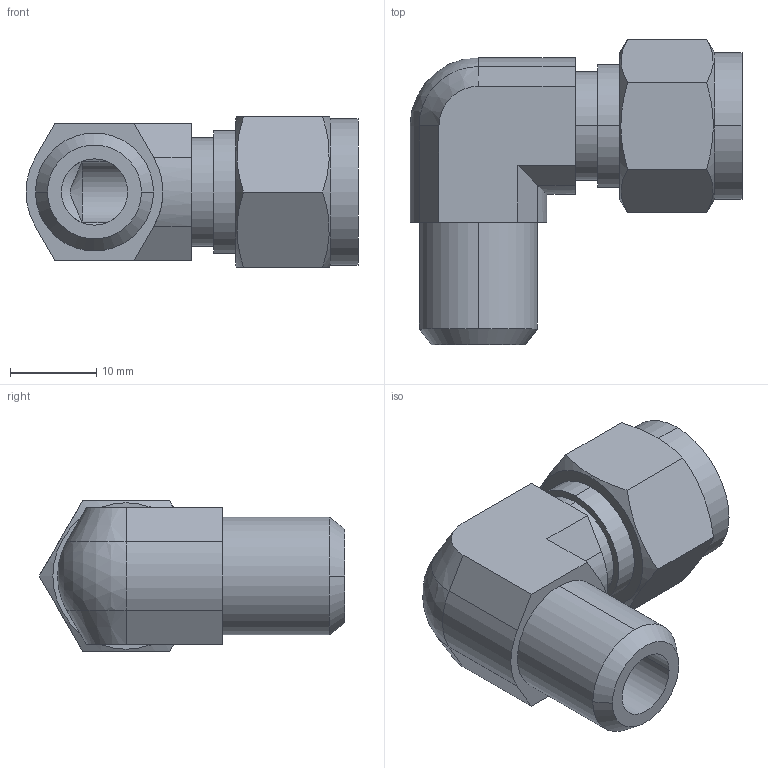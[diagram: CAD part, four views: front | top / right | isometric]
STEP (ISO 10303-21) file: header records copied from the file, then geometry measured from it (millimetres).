
FILE_DESCRIPTION (( 'STEP AP203' ), '1' );
FILE_NAME ('DLB 06-04 SS.STEP', '2009-09-08T06:39:42', ( ' ' ), ( '' ), 'SwSTEP 2.0', 'SolidWorks 2008', '' );
FILE_SCHEMA (( 'CONFIG_CONTROL_DESIGN' ));
Length unit declared in the file: millimetre
Products named in the file (1): DLB 06-04 SS
Bounding box: 38.55 x 35.48 x 17.46 mm (x, y, z)
Volume: 8084 mm3; surface area: 4755.9 mm2
Topology: 1 solids, 1 shells, 52 faces, 127 edges, 81 vertices
Faces by surface type: plane 23, cylinder 18, cone 10, sphere 1
Entity records: 1756 total; most frequent: CARTESIAN_POINT 466, DIRECTION 252, ORIENTED_EDGE 250, EDGE_CURVE 125, AXIS2_PLACEMENT_3D 96, VERTEX_POINT 80, LINE 60, VECTOR 60
